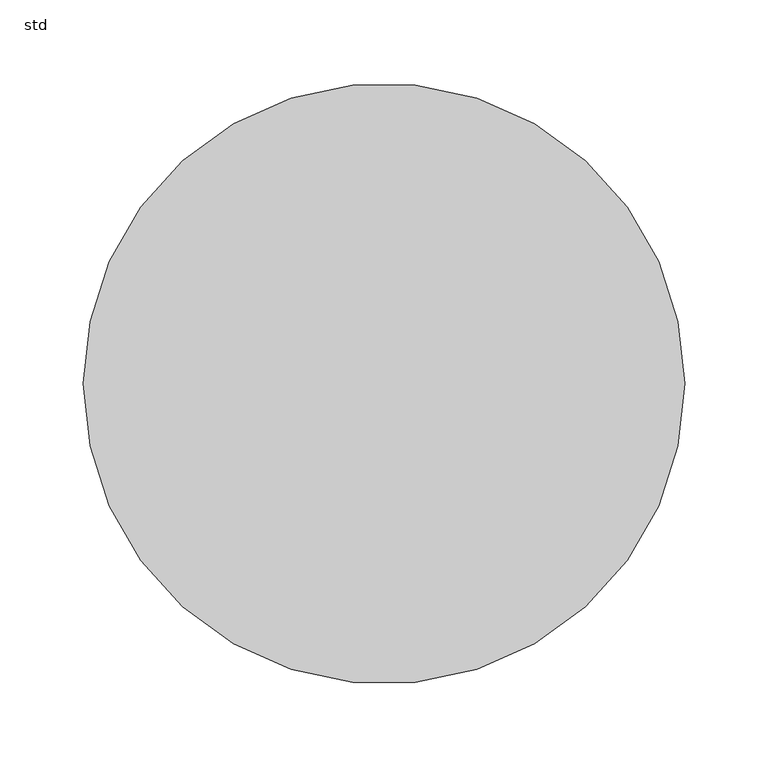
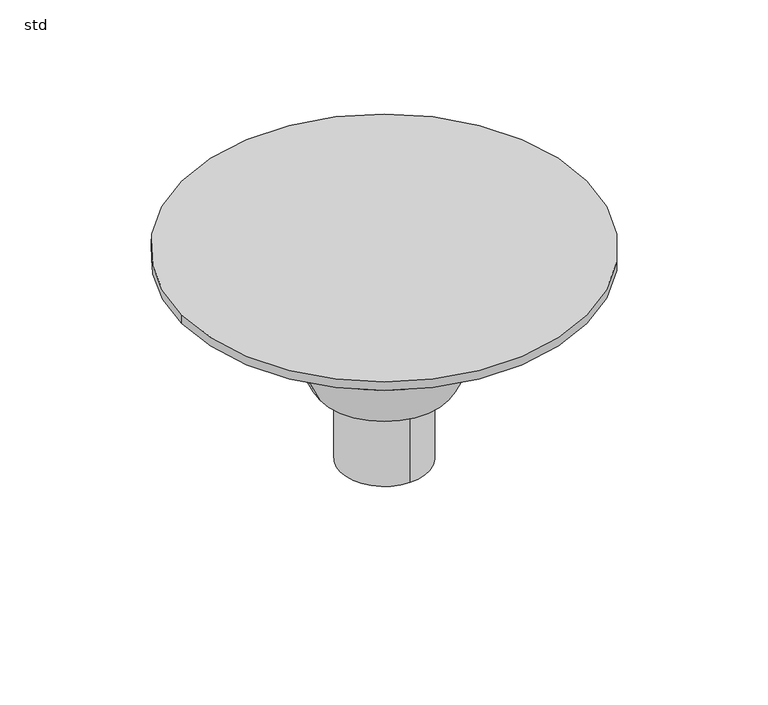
"""IFC4 building model written with IfcOpenShell, lengths in millimetres: sanitary terminal geometry, ZZZ_do_not_use_PF_CI_UN_gully body_ACO : std."""

from ifc_helpers import new_model, si_unit, frame, origin, origin_with_axes, place, context, project, spatial, polyline, circle_curve, source, transform, mapped, element, save
from ifc_brep_helpers import plane_surface, cylinder_surface, revolved_surface, advanced_brep


def std_ac43e922(model_context):
    return source(origin(), model_context, "Body", "AdvancedBrep", [
        advanced_brep(
        [(57.4487707, 0.0, -123.0), (-57.4487707, 0.0, -123.0), (-77.5, 0.0, -80.0), (77.5, 0.0, -80.0), (39.0, 0.0, -123.0), (0.0, 39.0, -123.0), (-39.0, 0.0, -123.0), (0.0, -39.0, -123.0), (-77.5, 0.0, -8.0), (77.5, 0.0, -8.0), (0.0, -39.0, -197.0), (0.0, 39.0, -197.0), (-180.0, 0.0, -8.0), (180.0, 0.0, -8.0), (-180.0, 0.0, 0.0), (180.0, 0.0, 0.0)],
        [
            (0, 1, circle_curve(frame((0.0, 0.0, -123.0), z_axis=(0.0, 0.0, 1.0), x_axis=(-1.0, 0.0, 0.0)), 57.4487707)),
            (1, 2),
            (2, 3, circle_curve(frame((0.0, 0.0, -80.0), z_axis=(0.0, 0.0, -1.0), x_axis=(-1.0, 0.0, 0.0)), 77.5)),
            (3, 0),
            (1, 0, circle_curve(frame((0.0, 0.0, -123.0), z_axis=(0.0, 0.0, 1.0), x_axis=(-1.0, 0.0, 0.0)), 57.4487707)),
            (3, 2, circle_curve(frame((0.0, 0.0, -80.0), z_axis=(0.0, 0.0, -1.0), x_axis=(-1.0, 0.0, 0.0)), 77.5)),
            (0, 4),
            (4, 5, circle_curve(frame((0.0, 0.0, -123.0), z_axis=(0.0, 0.0, 1.0), x_axis=(0.0, 1.0, 0.0)), 39.0)),
            (5, 6, circle_curve(frame((0.0, 0.0, -123.0), z_axis=(0.0, 0.0, 1.0), x_axis=(0.0, 1.0, 0.0)), 39.0)),
            (6, 1),
            (6, 7, circle_curve(frame((0.0, 0.0, -123.0), z_axis=(0.0, 0.0, 1.0), x_axis=(0.0, 1.0, 0.0)), 39.0)),
            (7, 4, circle_curve(frame((0.0, 0.0, -123.0), z_axis=(0.0, 0.0, 1.0), x_axis=(0.0, 1.0, 0.0)), 39.0)),
            (8, 2),
            (3, 9),
            (9, 8, circle_curve(frame((0.0, 0.0, -8.0), z_axis=(0.0, 0.0, -1.0), x_axis=(1.0, 0.0, 0.0)), 77.5)),
            (8, 9, circle_curve(frame((0.0, 0.0, -8.0), z_axis=(0.0, 0.0, -1.0), x_axis=(1.0, 0.0, 0.0)), 77.5)),
            (10, 11, circle_curve(frame((0.0, 0.0, -197.0), z_axis=(0.0, 0.0, -1.0), x_axis=(0.0, 1.0, 0.0)), 39.0)),
            (11, 10, circle_curve(frame((0.0, 0.0, -197.0), z_axis=(0.0, 0.0, -1.0), x_axis=(0.0, 1.0, 0.0)), 39.0)),
            (10, 7),
            (5, 11),
            (12, 13, circle_curve(frame((0.0, 0.0, -8.0), z_axis=(0.0, 0.0, -1.0), x_axis=(1.0, 0.0, 0.0)), 180.0)),
            (13, 12, circle_curve(frame((0.0, 0.0, -8.0), z_axis=(0.0, 0.0, -1.0), x_axis=(1.0, 0.0, 0.0)), 180.0)),
            (14, 15, circle_curve(origin_with_axes(), 180.0)),
            (15, 14, circle_curve(origin_with_axes(), 180.0)),
            (13, 15),
            (14, 12),
        ],
        [
            revolved_surface(polyline([(-77.5, 0.0, -80.0), (-57.4487707, 0.0, -123.0)]), (0.0, 0.0, -77.7894115), (0.0, 0.0, -1.0)),
            plane_surface(frame((0.0, 0.0, -123.0), z_axis=(0.0, 0.0, -1.0), x_axis=(-1.0, 0.0, 0.0))),
            cylinder_surface(frame((0.0, 0.0, -80.0), z_axis=(0.0, 0.0, 1.0), x_axis=(1.0, 0.0, 0.0)), 77.5),
            plane_surface(frame((0.0, 39.0, -197.0), z_axis=(0.0, 0.0, -1.0), x_axis=(1.0, 0.0, 0.0))),
            cylinder_surface(frame((0.0, 0.0, -123.0), z_axis=(0.0, 0.0, -1.0), x_axis=(0.0, 1.0, 0.0)), 39.0),
            plane_surface(frame((180.0, 0.0, -8.0), z_axis=(0.0, 0.0, -1.0), x_axis=(0.0, -1.0, 0.0))),
            plane_surface(frame((180.0, 0.0, 0.0), z_axis=(0.0, 0.0, 1.0), x_axis=(0.0, 1.0, 0.0))),
            cylinder_surface(frame((0.0, 0.0, -8.0), z_axis=(0.0, 0.0, 1.0), x_axis=(1.0, 0.0, 0.0)), 180.0),
        ],
        [
            (0, [[1, 2, 3, 4]]),
            (0, [[-2, 5, -4, 6]]),
            (1, [[-1, 7, 8, 9, 10]]),
            (1, [[-5, -10, 11, 12, -7]]),
            (2, [[13, -6, 14, 15]]),
            (2, [[-13, 16, -14, -3]]),
            (3, [[17, 18]]),
            (4, [[-17, 19, -11, -9, 20]]),
            (4, [[-18, -20, -8, -12, -19]]),
            (5, [[21, 22], [-15, -16]]),
            (6, [[23, 24]]),
            (7, [[-22, 25, -23, 26]]),
            (7, [[-21, -26, -24, -25]]),
        ],
    ),
    ])


if __name__ == "__main__":
    model = new_model("IFC4")
    model_context = context("Model", 3, world=origin())
    ifc_project = project(units=[si_unit("LENGTHUNIT", "METRE", prefix="MILLI")], contexts=[model_context])
    site = spatial("IfcSite", under=ifc_project)
    building = spatial("IfcBuilding", under=site)
    placement = place(None, origin())
    std_shape = std_ac43e922(model_context)
    element("IfcSanitaryTerminal", 1, ObjectType="ZZZ_do_not_use_PF_CI_UN_gully body_ACO : std", at=placement, inside=building, context=model_context, shape_type="MappedRepresentation", body=[
        mapped(std_shape, transform((0.0, 0.0, 0.0), x_axis=(1.0, 0.0, 0.0), y_axis=(0.0, 1.0, 0.0), z_axis=(0.0, 0.0, 1.0))),
    ])
    save(model, "model.ifc")
